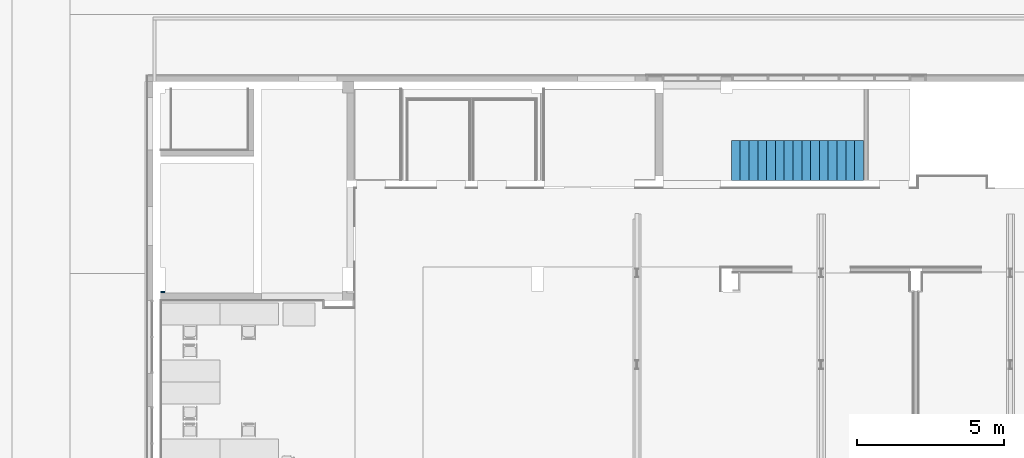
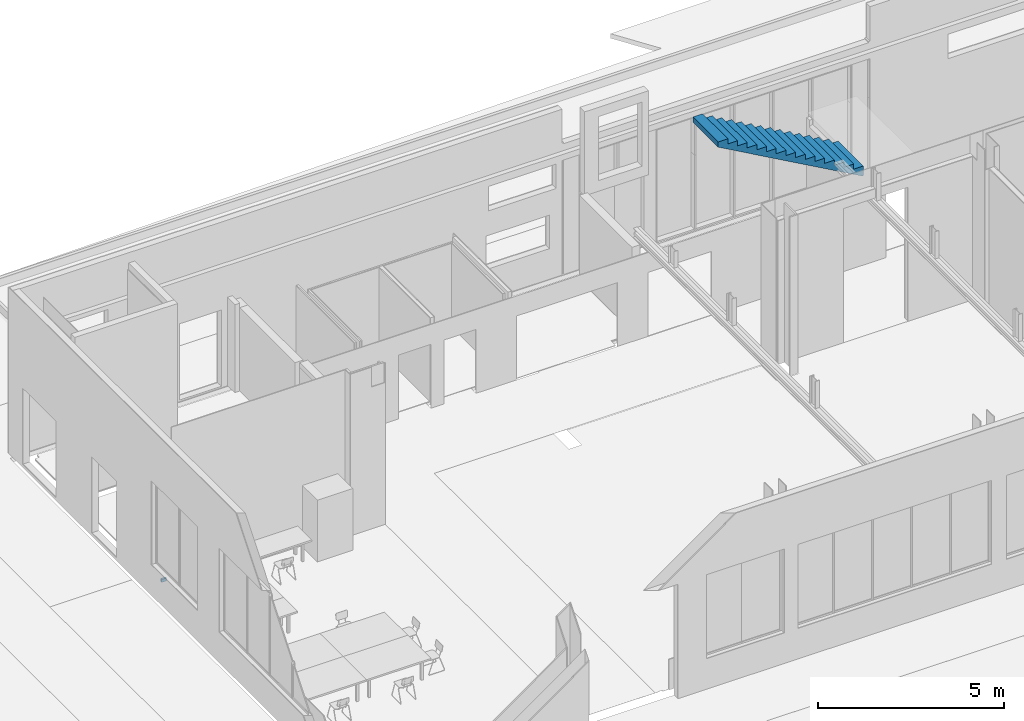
# One storey, part 19 of 27: 1 stair, 1 wall, 1 element without a shape of its own.
"""IFC2X3 building model written with IfcOpenShell, lengths in centimetres."""

from ifc_helpers import new_model, entity, si_unit, converted_unit, derived_unit, direction, frame, frame_2d, origin, place, context, subcontext, project, spatial, polyline, rectangle, outline, extrude, material, layer, layer_set, layer_usage, type_object, element, aggregate, save


model = new_model("IFC2X3")

# Units and contexts
model_context = context("Model", 3, precision=0.001, world=origin(), true_north=direction((6.12303176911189e-17, 1.0)))
body_context = subcontext(model_context, "Body", "Model", "MODEL_VIEW")
ifc_project = project(units=[si_unit("LENGTHUNIT", "METRE", prefix="CENTI"), si_unit("AREAUNIT", "SQUARE_METRE"), si_unit("VOLUMEUNIT", "CUBIC_METRE"), converted_unit("PLANEANGLEUNIT", "DEGREE", entity("IfcRatioMeasure", 0.0174532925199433), si_unit("PLANEANGLEUNIT", "RADIAN"), dimensions=[0, 0, 0, 0, 0, 0, 0]), si_unit("MASSUNIT", "GRAM", prefix="KILO"), derived_unit("MASSDENSITYUNIT", [(si_unit("MASSUNIT", "GRAM", prefix="KILO"), 1), (si_unit("LENGTHUNIT", "METRE"), -3)]), derived_unit("MOMENTOFINERTIAUNIT", [(si_unit("LENGTHUNIT", "METRE"), 4)]), si_unit("TIMEUNIT", "SECOND"), si_unit("FREQUENCYUNIT", "HERTZ"), si_unit("THERMODYNAMICTEMPERATUREUNIT", "DEGREE_CELSIUS"), derived_unit("THERMALTRANSMITTANCEUNIT", [(si_unit("MASSUNIT", "GRAM", prefix="KILO"), 1), (si_unit("THERMODYNAMICTEMPERATUREUNIT", "KELVIN"), -1), (si_unit("TIMEUNIT", "SECOND"), -3)]), derived_unit("VOLUMETRICFLOWRATEUNIT", [(si_unit("LENGTHUNIT", "METRE"), 3), (si_unit("TIMEUNIT", "SECOND"), -1)]), si_unit("ELECTRICCURRENTUNIT", "AMPERE"), si_unit("ELECTRICVOLTAGEUNIT", "VOLT"), si_unit("POWERUNIT", "WATT"), si_unit("FORCEUNIT", "NEWTON", prefix="KILO"), si_unit("ILLUMINANCEUNIT", "LUX"), si_unit("LUMINOUSFLUXUNIT", "LUMEN"), si_unit("LUMINOUSINTENSITYUNIT", "CANDELA"), derived_unit("USERDEFINED", [(si_unit("MASSUNIT", "GRAM", prefix="KILO"), -1), (si_unit("LENGTHUNIT", "METRE"), -2), (si_unit("TIMEUNIT", "SECOND"), 3), (si_unit("LUMINOUSFLUXUNIT", "LUMEN"), 1)]), derived_unit("LINEARVELOCITYUNIT", [(si_unit("LENGTHUNIT", "METRE"), 1), (si_unit("TIMEUNIT", "SECOND"), -1)]), si_unit("PRESSUREUNIT", "PASCAL"), derived_unit("USERDEFINED", [(si_unit("LENGTHUNIT", "METRE"), -2), (si_unit("MASSUNIT", "GRAM", prefix="KILO"), 1), (si_unit("TIMEUNIT", "SECOND"), -2)]), derived_unit("LINEARFORCEUNIT", [(si_unit("MASSUNIT", "GRAM", prefix="KILO"), 1), (si_unit("LENGTHUNIT", "METRE"), 1), (si_unit("TIMEUNIT", "SECOND"), -2), (si_unit("LENGTHUNIT", "METRE"), -1)]), derived_unit("PLANARFORCEUNIT", [(si_unit("MASSUNIT", "GRAM", prefix="KILO"), 1), (si_unit("LENGTHUNIT", "METRE"), 1), (si_unit("TIMEUNIT", "SECOND"), -2), (si_unit("LENGTHUNIT", "METRE"), -2)])], contexts=[model_context])

# Site, building, storey
site_placement = place(None, origin())
site = spatial("IfcSite", under=ifc_project, at=site_placement, Name="Default", CompositionType="ELEMENT")
building_placement = place(site_placement, origin())
building = spatial("IfcBuilding", under=site, at=building_placement, CompositionType="ELEMENT")
storey_placement = place(building_placement, origin())
storey = spatial("IfcBuildingStorey", under=building, at=storey_placement, Name="Poziom 0 A +/-0,00", CompositionType="ELEMENT", Elevation=3.38570427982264e-11)

# Wall
ifc_material_1 = material(Name="Pustak ceramiczny, klasa 15")
ifc_layer = layer(ifc_material_1, 15.0)
ifc_layer_set = layer_set([ifc_layer], Name="Ściana podstawowa:Ściana murowana gr. 15cm")
ifc_layer_usage = layer_usage(ifc_layer_set, "AXIS2", "NEGATIVE", 7.5)
wall_type = type_object("IfcWallType", Name="Ściana podstawowa:Ściana murowana gr. 15cm", PredefinedType="STANDARD", material=ifc_layer_set)
wall_placement = place(storey_placement, frame((-2901.76511743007, 1384.12745234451, 10.0), z_axis=(0.0, 0.0, 1.0), x_axis=(0.0, 1.0, 0.0)))
element("IfcWallStandardCase", 1, at=wall_placement, inside=storey, type_object=wall_type, material=ifc_layer_usage, Name="Ściana podstawowa:Ściana murowana gr. 15cm", ObjectType="Ściana podstawowa:Ściana murowana gr. 15cm", context=body_context, shape_type="SweptSolid", body=[
    extrude(rectangle(XDim=5.99999974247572, YDim=15.0000000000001, at=frame_2d((2.99999987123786, 0.0), x_axis=(-1.0, 0.0))), origin(), (0.0, 0.0, 1.0), 10.0000000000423),
])

# Stairs
stair_1_placement = place(storey_placement, origin())
stair_1 = element("IfcStair", 2, at=stair_1_placement, inside=storey, Name="Schody bieg2:Schody bieg2", ObjectType="Schody bieg2:Schody bieg2", ShapeType="NOTDEFINED")
ifc_material_2 = material(Name="_Beton, C25/30")
stair_2_placement = place(stair_1_placement, origin())
stair_2 = element("IfcStair", 3, at=stair_2_placement, material=ifc_material_2, Name="Schody bieg2:Schody bieg2", ObjectType="Schody bieg2:Schody bieg2", ShapeType="NOTDEFINED", context=body_context, shape_type="SweptSolid", body=[
    extrude(outline(polyline([(125.173888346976, -212.004802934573), (140.175534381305, -212.004802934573), (140.175534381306, -207.941751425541), (-110.740591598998, 238.131361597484), (-127.95115394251, 238.131361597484), (-127.95115394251, 208.131908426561), (-111.076111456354, 208.131908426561), (-111.076111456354, 178.13190836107), (-94.2011539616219, 178.13190836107), (-94.201153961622, 148.131908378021), (-77.3261539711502, 148.131908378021), (-77.3261539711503, 118.131908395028), (-60.4511539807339, 118.131908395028), (-60.451153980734, 88.1319084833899), (-43.5761539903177, 88.1319084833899), (-43.5761539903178, 58.131908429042), (-26.701153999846, 58.131908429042), (-26.7011539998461, 28.1319084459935), (-9.82615400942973, 28.1319084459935), (-9.82615400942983, -1.86809153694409), (7.04884598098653, -1.86809153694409), (7.04884598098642, -31.8680915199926), (23.9238459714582, -31.8680915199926), (23.9238459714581, -61.8680915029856), (40.7988459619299, -61.8680915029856), (40.7988459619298, -91.8680914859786), (57.6738884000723, -91.8680914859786), (57.6738884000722, -121.868091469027), (74.5488883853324, -121.868091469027), (74.5488883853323, -151.86809145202), (91.4238459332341, -151.86809145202), (91.423845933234, -181.868091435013), (108.29884592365, -181.868091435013), (108.29884592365, -212.004802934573), (125.173888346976, -212.004802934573)])), frame((-725.133728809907, 1768.12745200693, 411.175494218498), z_axis=(0.0, 1.0, 0.0), x_axis=(0.0, 0.0, -1.0)), (0.0, 0.0, 1.0), 135.0),
])
aggregate(stair_1, [stair_2])

save(model, "model.ifc")
